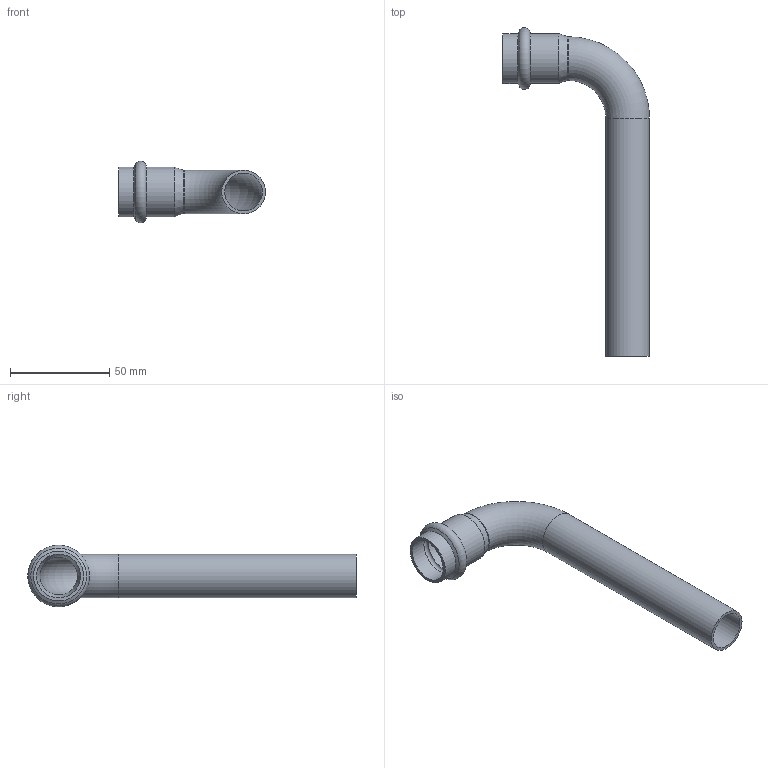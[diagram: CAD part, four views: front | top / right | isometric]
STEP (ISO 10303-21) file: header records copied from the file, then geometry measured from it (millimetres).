
FILE_DESCRIPTION((''),'2;1');
FILE_NAME('G:\Technics\CAD\Bauteile\022\69001L22(0).stp','2008-02-18T10:51:18',('herberg'),(''),'Autodesk Inventor 2008','Autodesk Inventor 2008','');
FILE_SCHEMA(('AUTOMOTIVE_DESIGN { 1 0 10303 214 1 1 1 1 }'));
Length unit declared in the file: millimetre
Products named in the file (1): 69001L22(0)
Bounding box: 74 x 165.54 x 31.09 mm (x, y, z)
Volume: 20381.3 mm3; surface area: 27465.6 mm2
Topology: 1 solids, 1 shells, 18 faces, 38 edges, 22 vertices
Faces by surface type: cylinder 8, torus 4, cone 4, plane 2
Full cylindrical faces by diameter (mm): 19 x2, 22 x2, 22.15 x2, 25.15 x2
Entity records: 394 total; most frequent: DIRECTION 74, CARTESIAN_POINT 55, AXIS2_PLACEMENT_3D 37, ORIENTED_EDGE 36, EDGE_LOOP 36, VERTEX_POINT 18, CIRCLE 18, EDGE_CURVE 18
